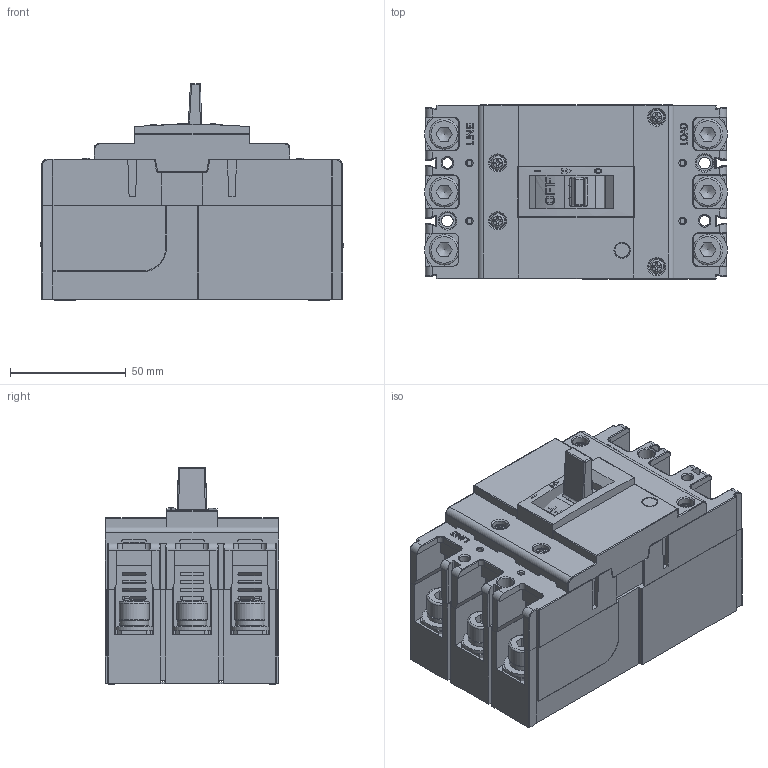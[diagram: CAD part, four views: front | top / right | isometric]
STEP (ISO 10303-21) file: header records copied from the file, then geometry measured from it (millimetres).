
FILE_DESCRIPTION(/* description */ (''),/* implementation_level */ '2;1');
FILE_NAME(/* name */ 'YCM7-125.stp',/* time_stamp */ '2022-07-30T13:11:57+08:00',/* author */ (''),/* organization */ (''),/* preprocessor_version */ 'ST-DEVELOPER v16',/* originating_system */ 'SIEMENS PLM Software NX 10.0',/* authorisation */ '');
FILE_SCHEMA (('CONFIG_CONTROL_DESIGN'));
Products named in the file (1): BLM3-125
Bounding box: 130.8 x 75 x 93.58 mm (x, y, z)
Volume: 254881.3 mm3; surface area: 204822.8 mm2
Topology: 40 solids, 40 shells, 3549 faces, 10024 edges, 6625 vertices
Faces by surface type: plane 2536, cylinder 744, torus 101, cone 82, extrusion 41, sphere 30, bspline 15
Full cylindrical faces by diameter (mm): 2.2 x4, 2.4 x6, 2.5 x4, 2.6 x2, 2.675 x3, 3 x5, 3.15 x4, 3.2 x2, 3.354 x4, 3.5 x3, 3.6 x6, 3.7 x2, 3.8 x2, 4 x5, 4.3 x3, 4.5 x8, 5 x4, 5.2 x2, 5.5 x2, 5.6 x5, 5.85 x4, 6 x2, 6.05 x2, 6.2 x1, 6.4 x1, 6.5 x5, 6.6 x1, 6.645 x6, 6.8 x8, 7 x2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
Entity records: 114745 total; most frequent: CARTESIAN_POINT 23224, ORIENTED_EDGE 19288, DIRECTION 18009, EDGE_CURVE 9644, VECTOR 7295, LINE 7254, VERTEX_POINT 6520, AXIS2_PLACEMENT_3D 5357
